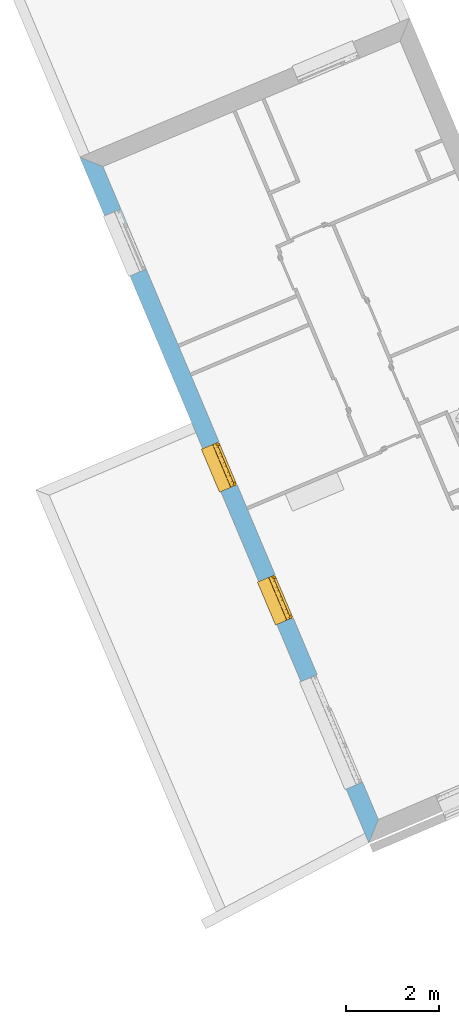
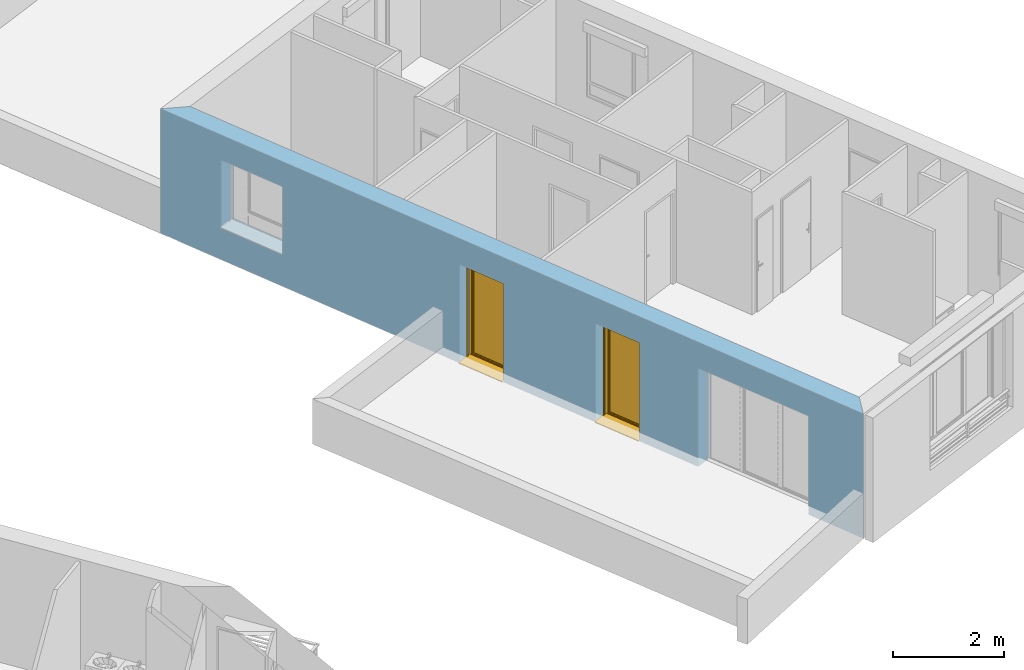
# One storey, part 33 of 121: 2 windows, 4 openings, plus 1 element that does not belong to this part.
"""IFC2X3 building model written with IfcOpenShell, lengths in metres."""

from ifc_helpers import new_model, entity, si_unit, converted_unit, derived_unit, money_unit, direction, frame, origin_with_axes, place, context, subcontext, project, spatial, polyline, outline, extrude, open_shell, faceted_brep, surface_model, source, transform, mapped, material, layer, layer_set, layer_usage, type_object, element, fill, save


model = new_model("IFC2X3")

# Units and contexts
model_context = context("Model", 3, precision=1e-05, world=origin_with_axes(), true_north=direction((0.0, 1.0)))
body_context = subcontext(model_context, "Body", "Model", "MODEL_VIEW")
ifc_project = project(units=[si_unit("LENGTHUNIT", "METRE"), si_unit("AREAUNIT", "SQUARE_METRE"), si_unit("VOLUMEUNIT", "CUBIC_METRE"), converted_unit("PLANEANGLEUNIT", "DEGREE", entity("IfcPlaneAngleMeasure", 0.0174532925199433), si_unit("PLANEANGLEUNIT", "RADIAN"), dimensions=[0, 0, 0, 0, 0, 0, 0]), money_unit("CHF"), converted_unit("TIMEUNIT", "Year", entity("IfcTimeMeasure", 31557600.0), si_unit("TIMEUNIT", "SECOND"), dimensions=[0, 0, 1, 0, 0, 0, 0]), si_unit("MASSUNIT", "GRAM", prefix="KILO"), si_unit("THERMODYNAMICTEMPERATUREUNIT", "DEGREE_CELSIUS"), si_unit("LUMINOUSINTENSITYUNIT", "LUMEN"), si_unit("ENERGYUNIT", "JOULE", prefix="MEGA"), derived_unit("THERMALCONDUCTANCEUNIT", [(si_unit("POWERUNIT", "WATT"), 1), (si_unit("LENGTHUNIT", "METRE"), -1), (si_unit("THERMODYNAMICTEMPERATUREUNIT", "KELVIN"), -1)]), derived_unit("SPECIFICHEATCAPACITYUNIT", [(si_unit("ENERGYUNIT", "JOULE"), 1), (si_unit("MASSUNIT", "GRAM", prefix="KILO"), -1), (si_unit("THERMODYNAMICTEMPERATUREUNIT", "KELVIN"), -1)]), derived_unit("MASSDENSITYUNIT", [(si_unit("MASSUNIT", "GRAM", prefix="KILO"), 1), (si_unit("VOLUMEUNIT", "CUBIC_METRE"), -1)])], contexts=[model_context])

# Site, building, storey
site_placement = place(None, origin_with_axes())
site = spatial("IfcSite", under=ifc_project, at=site_placement, Name="Site", CompositionType="ELEMENT")
building_placement = place(site_placement, origin_with_axes())
building = spatial("IfcBuilding", under=site, at=building_placement, Name="Bâtiment", CompositionType="ELEMENT")
storey_placement = place(building_placement, frame((0.0, 0.0, 2.75), z_axis=(0.0, 0.0, 1.0), x_axis=(1.0, 0.0, 0.0)))
storey = spatial("IfcBuildingStorey", under=building, at=storey_placement, Name="Etage 1", CompositionType="ELEMENT", Elevation=2.75)

# Wall, openings, windows
ifc_material_1 = material(Name="Parpaing 312445824")
ifc_layer_1 = layer(ifc_material_1, 0.22, ventilated="UNKNOWN")
ifc_material_2 = material(Name="Isolant styromousse 301821074")
ifc_layer_2 = layer(ifc_material_2, 0.16, ventilated="UNKNOWN")
ifc_layer_set = layer_set([ifc_layer_1, ifc_layer_2], Name="isol int 22+16 0836643197")
ifc_layer_usage = layer_usage(ifc_layer_set, "AXIS2", "NEGATIVE", 0.0)
wall_type = type_object("IfcWallType", Name="isol int 22+16 0836643197 380", PredefinedType="NOTDEFINED")
wall_placement = place(storey_placement, frame((9571.917965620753, -1065.802029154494, 57.7), z_axis=(0.0, 0.0, 1.0), x_axis=(-0.388566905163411, 0.9214205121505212, 0.0)))
wall = element("IfcWallStandardCase", 1, at=wall_placement, inside=storey, type_object=wall_type, material=ifc_layer_usage, Name="Mur-114", context=body_context, shape_type="SweptSolid", body=[
    extrude(outline(polyline([(0.3817093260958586, -0.3799999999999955), (15.56597725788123, -0.3800000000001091), (15.9459772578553, 0.0), (0.0, 0.0), (0.3817093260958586, -0.3799999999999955)])), origin_with_axes(), (0.0, 0.0, 1.0), 2.75),
])
opening_1_placement = place(wall_placement, frame((13.88062266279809, 0.0, 0.7000000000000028), z_axis=(0.0, 0.0, 1.0), x_axis=(1.0, 0.0, 0.0)))
element("IfcOpeningElement", 2, at=opening_1_placement, cuts=wall, Name="Fen-045", context=body_context, shape_type="Brep", body=[
    faceted_brep([(0.6999999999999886, -0.4800000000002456, 1.5), (-0.7000000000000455, -0.4800000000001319, 1.5), (-0.7000000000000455, -6.090194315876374, 1.5), (0.6999999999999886, -6.090194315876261, 1.5), (0.6999999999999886, -0.4800000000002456, 1.700000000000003), (-0.7000000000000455, -0.4800000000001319, 1.700000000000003), (-0.7000000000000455, -0.3000000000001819, 1.5), (-0.7000000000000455, -0.3000000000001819, 0.0), (-0.7000000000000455, -6.090194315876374, 0.0), (0.6999999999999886, -6.090194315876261, 0.0), (0.6999999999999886, -0.3000000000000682, 1.5), (0.6999999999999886, -0.3000000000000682, 0.0), (0.6999999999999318, -0.2200000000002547, 1.5), (0.6999999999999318, -0.2200000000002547, 1.700000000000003), (-0.6999999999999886, -0.220000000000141, 1.700000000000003), (-0.6999999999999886, -0.220000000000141, 1.5), (-0.7000000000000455, 5.71019431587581, 1.5), (-0.7000000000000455, 5.71019431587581, 0.0), (0.6999999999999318, 5.71019431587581, 0.0), (0.6999999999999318, 5.71019431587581, 1.5)], [[[0, 1, 2, 3]], [[1, 0, 4, 5]], [[1, 6, 7, 8, 2]], [[2, 8, 9, 3]], [[10, 0, 3, 9, 11]], [[0, 10, 12, 13, 4]], [[4, 13, 14, 5]], [[6, 1, 5, 14, 15]], [[6, 15, 16, 17, 7]], [[7, 11, 9, 8]], [[12, 10, 11, 18, 19]], [[12, 15, 14, 13]], [[15, 12, 19, 16]], [[19, 18, 17, 16]], [[11, 7, 17, 18]]]),
])
opening_2_placement = place(wall_placement, frame((8.666283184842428, 0.0, 0.0), z_axis=(0.0, 0.0, 1.0), x_axis=(1.0, 0.0, 0.0)))
opening_2 = element("IfcOpeningElement", 3, at=opening_2_placement, cuts=wall, Name="Fen-052", context=body_context, shape_type="Brep", body=[
    faceted_brep([(0.5, -0.4800000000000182, 2.18), (-0.5, -0.4800000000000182, 2.18), (-0.5000000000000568, -6.090194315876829, 2.18), (0.4999999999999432, -6.090194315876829, 2.18), (0.5, -0.4800000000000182, 2.380000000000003), (-0.5, -0.4800000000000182, 2.380000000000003), (-0.5, -0.3000000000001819, 2.18), (-0.5, -0.3000000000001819, 0.0), (-0.5000000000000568, -6.090194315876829, 0.0), (0.4999999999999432, -6.090194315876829, 0.0), (0.5, -0.3000000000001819, 2.18), (0.5, -0.3000000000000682, 0.0), (0.5, -0.2200000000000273, 2.18), (0.5, -0.2200000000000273, 2.380000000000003), (-0.5, -0.2200000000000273, 2.380000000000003), (-0.5, -0.2200000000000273, 2.18), (-0.5, 5.710194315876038, 2.18), (-0.5, 5.710194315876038, 0.0), (0.5, 5.710194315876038, 0.0), (0.5, 5.710194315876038, 2.18)], [[[0, 1, 2, 3]], [[1, 0, 4, 5]], [[1, 6, 7, 8, 2]], [[2, 8, 9, 3]], [[10, 0, 3, 9, 11]], [[0, 10, 12, 13, 4]], [[4, 13, 14, 5]], [[6, 1, 5, 14, 15]], [[6, 15, 16, 17, 7]], [[7, 11, 9, 8]], [[12, 10, 11, 18, 19]], [[12, 15, 14, 13]], [[15, 12, 19, 16]], [[19, 18, 17, 16]], [[11, 7, 17, 18]]]),
])
opening_3_placement = place(wall_placement, frame((5.576626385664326, 0.0, 0.0), z_axis=(0.0, 0.0, 1.0), x_axis=(1.0, 0.0, 0.0)))
opening_3 = element("IfcOpeningElement", 4, at=opening_3_placement, cuts=wall, Name="Fen-052", context=body_context, shape_type="Brep", body=[
    faceted_brep([(0.5, -0.4799999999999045, 2.18), (-0.5000000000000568, -0.4800000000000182, 2.18), (-0.5000000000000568, -6.090194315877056, 2.18), (0.4999999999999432, -6.090194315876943, 2.18), (0.5, -0.4799999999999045, 2.380000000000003), (-0.5000000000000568, -0.4800000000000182, 2.380000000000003), (-0.5, -0.3000000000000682, 2.18), (-0.5, -0.3000000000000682, 0.0), (-0.5000000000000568, -6.090194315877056, 0.0), (0.4999999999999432, -6.090194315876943, 0.0), (0.5, -0.3000000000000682, 2.18), (0.5, -0.3000000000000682, 0.0), (0.5, -0.2200000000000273, 2.18), (0.5, -0.2200000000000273, 2.380000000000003), (-0.5, -0.2200000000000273, 2.380000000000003), (-0.5, -0.2200000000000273, 2.18), (-0.5, 5.710194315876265, 2.18), (-0.5, 5.710194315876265, 0.0), (0.5, 5.710194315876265, 0.0), (0.5, 5.710194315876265, 2.18)], [[[0, 1, 2, 3]], [[1, 0, 4, 5]], [[1, 6, 7, 8, 2]], [[2, 8, 9, 3]], [[10, 0, 3, 9, 11]], [[0, 10, 12, 13, 4]], [[4, 13, 14, 5]], [[6, 1, 5, 14, 15]], [[6, 15, 16, 17, 7]], [[7, 11, 9, 8]], [[12, 10, 11, 18, 19]], [[12, 15, 14, 13]], [[15, 12, 19, 16]], [[19, 18, 17, 16]], [[11, 7, 17, 18]]]),
])
opening_4_placement = place(wall_placement, frame((2.4999145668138, 0.0, 0.0), z_axis=(0.0, 0.0, 1.0), x_axis=(1.0, 0.0, 0.0)))
element("IfcOpeningElement", 5, at=opening_4_placement, cuts=wall, Name="Fen-045", context=body_context, shape_type="Brep", body=[
    faceted_brep([(1.25, -0.4800000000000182, 2.18), (-1.25, -0.4800000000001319, 2.18), (-1.25, -6.090194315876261, 2.18), (1.25, -6.090194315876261, 2.18), (1.25, -0.4800000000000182, 2.380000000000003), (-1.25, -0.4800000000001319, 2.380000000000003), (-1.25, -0.2999999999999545, 2.18), (-1.249999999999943, -0.3000000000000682, 0.0), (-1.25, -6.090194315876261, 0.0), (1.25, -6.090194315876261, 0.0), (1.25, -0.3000000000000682, 2.18), (1.250000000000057, -0.3000000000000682, 0.0), (1.25, -0.2200000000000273, 2.18), (1.25, -0.2200000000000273, 2.380000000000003), (-1.25, -0.2200000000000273, 2.380000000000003), (-1.25, -0.2200000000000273, 2.18), (-1.25, 5.710194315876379, 2.18), (-1.25, 5.710194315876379, 0.0), (1.25, 5.710194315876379, 0.0), (1.25, 5.710194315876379, 2.18)], [[[0, 1, 2, 3]], [[1, 0, 4, 5]], [[1, 6, 7, 8, 2]], [[2, 8, 9, 3]], [[10, 0, 3, 9, 11]], [[0, 10, 12, 13, 4]], [[4, 13, 14, 5]], [[6, 1, 5, 14, 15]], [[6, 15, 16, 17, 7]], [[7, 11, 9, 8]], [[12, 10, 11, 18, 19]], [[12, 15, 14, 13]], [[15, 12, 19, 16]], [[19, 18, 17, 16]], [[11, 7, 17, 18]]]),
])
window_style = type_object("IfcWindowStyle", Name="Fenêtre variable 27", ConstructionType="NOTDEFINED", OperationType="SINGLE_PANEL", ParameterTakesPrecedence=False, Sizeable=False)
shared_shape = source(origin_with_axes(), body_context, "Body", "SurfaceModel", [
    surface_model("IfcShellBasedSurfaceModel", [(0.5, -0.05100000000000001, 0.05), (-0.5, -0.05100000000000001, 0.05000000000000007), (-0.5, -0.05100000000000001, 0.04000000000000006), (0.5, -0.05100000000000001, 0.04), (-0.5, -0.3799999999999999, 0.02900000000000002), (0.5, -0.3799999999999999, 0.02899999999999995), (-0.5, -0.3799999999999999, 0.009000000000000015), (0.5, -0.3799999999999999, 0.008999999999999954), (-0.5, -0.3699999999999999, 0.01900000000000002), (0.5, -0.3699999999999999, 0.01899999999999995)], [open_shell([[[0, 1, 2, 3]], [[3, 2, 4, 5]], [[5, 4, 6, 7]], [[7, 6, 8, 9]]])]),
    faceted_brep([(0.5, -0.13, 2.38), (0.5, 0.13, 2.38), (0.497, 0.13, 2.38), (0.497, -0.13, 2.38), (0.5, -0.13, 2.18), (0.5, 0.13, 2.18), (0.497, 0.13, 2.18), (0.497, -0.13, 2.18)], [[[0, 1, 2, 3]], [[0, 4, 5, 1]], [[1, 5, 6, 2]], [[3, 2, 6, 7]], [[4, 0, 3, 7]], [[5, 4, 7, 6]]]),
    faceted_brep([(-0.497, -0.1299999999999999, 2.38), (-0.497, 0.1300000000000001, 2.38), (-0.5, 0.1300000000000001, 2.38), (-0.5, -0.1299999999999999, 2.38), (-0.497, -0.1299999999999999, 2.18), (-0.497, 0.1300000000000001, 2.18), (-0.5, 0.1300000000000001, 2.18), (-0.5, -0.1299999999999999, 2.18)], [[[0, 1, 2, 3]], [[0, 4, 5, 1]], [[1, 5, 6, 2]], [[3, 2, 6, 7]], [[4, 0, 3, 7]], [[5, 4, 7, 6]]]),
    faceted_brep([(0.497, -0.13, 2.18), (0.497, -0.13, 2.38), (-0.497, -0.1299999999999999, 2.38), (-0.497, -0.1299999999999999, 2.18), (0.497, -0.127, 2.18), (0.497, -0.127, 2.377), (0.497, 0.127, 2.377), (0.497, 0.127, 2.183), (0.497, -0.108, 2.183), (0.497, -0.108, 2.18), (0.497, 0.13, 2.18), (0.497, 0.13, 2.38), (-0.497, 0.1300000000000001, 2.38), (-0.497, 0.1300000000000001, 2.18), (-0.497, -0.1079999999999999, 2.18), (-0.497, -0.1079999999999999, 2.183), (-0.497, 0.1270000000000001, 2.183), (-0.497, 0.1270000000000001, 2.377), (-0.497, -0.1269999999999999, 2.377), (-0.497, -0.1269999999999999, 2.18)], [[[0, 1, 2, 3]], [[0, 4, 5, 6, 7, 8, 9, 10, 11, 1]], [[1, 11, 12, 2]], [[3, 2, 12, 13, 14, 15, 16, 17, 18, 19]], [[4, 0, 3, 19]], [[5, 4, 19, 18]], [[6, 5, 18, 17]], [[7, 6, 17, 16]], [[8, 7, 16, 15]], [[9, 8, 15, 14]], [[10, 9, 14, 13]], [[11, 10, 13, 12]]]),
    faceted_brep([(0.494, -0.08075423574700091, 2.265760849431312), (0.494, -0.07705479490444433, 2.251954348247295), (0.494, -0.07101408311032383, 2.239), (0.494, -0.06281564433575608, 2.227291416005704), (0.494, -0.05270858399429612, 2.217184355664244), (0.494, -0.04099999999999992, 2.208985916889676), (0.494, -0.02804565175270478, 2.202945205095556), (0.494, -0.01423915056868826, 2.199245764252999), (0.494, 0.0, 2.198), (0.494, 0.01423915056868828, 2.199245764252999), (0.494, 0.02804565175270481, 2.202945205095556), (0.494, 0.04099999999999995, 2.208985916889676), (0.494, 0.05270858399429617, 2.217184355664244), (0.494, 0.06281564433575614, 2.227291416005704), (0.494, 0.0710140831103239, 2.239), (0.494, 0.07705479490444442, 2.251954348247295), (0.494, 0.08075423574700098, 2.265760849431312), (0.494, 0.08199999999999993, 2.28), (0.494, 0.080754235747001, 2.294239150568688), (0.494, 0.07705479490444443, 2.308045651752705), (0.494, 0.07101408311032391, 2.321), (0.494, 0.06281564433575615, 2.332708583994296), (0.494, 0.05270858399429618, 2.342815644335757), (0.494, 0.04099999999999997, 2.351014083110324), (0.494, 0.02804565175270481, 2.357054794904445), (0.494, 0.01423915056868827, 2.360754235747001), (0.494, 0.0, 2.362), (0.494, -0.0142391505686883, 2.360754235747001), (0.494, -0.02804565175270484, 2.357054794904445), (0.494, -0.041, 2.351014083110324), (0.494, -0.05270858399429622, 2.342815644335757), (0.494, -0.0628156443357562, 2.332708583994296), (0.494, -0.07101408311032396, 2.321), (0.494, -0.07705479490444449, 2.308045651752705), (0.494, -0.08075423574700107, 2.294239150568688), (0.494, -0.082, 2.28), (-0.494, -0.08075423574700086, 2.265760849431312), (-0.494, -0.07705479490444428, 2.251954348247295), (-0.494, -0.07101408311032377, 2.239), (-0.494, -0.06281564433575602, 2.227291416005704), (-0.494, -0.05270858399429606, 2.217184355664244), (-0.494, -0.04099999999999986, 2.208985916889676), (-0.494, -0.02804565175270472, 2.202945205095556), (-0.494, -0.01423915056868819, 2.199245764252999), (-0.494, 0.0, 2.198), (-0.494, 0.01423915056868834, 2.199245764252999), (-0.494, 0.02804565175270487, 2.202945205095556), (-0.494, 0.04100000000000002, 2.208985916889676), (-0.494, 0.05270858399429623, 2.217184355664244), (-0.494, 0.06281564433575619, 2.227291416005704), (-0.494, 0.07101408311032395, 2.239), (-0.494, 0.07705479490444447, 2.251954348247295), (-0.494, 0.08075423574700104, 2.265760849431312), (-0.494, 0.08199999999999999, 2.28), (-0.494, 0.08075423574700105, 2.294239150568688), (-0.494, 0.07705479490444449, 2.308045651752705), (-0.494, 0.07101408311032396, 2.321), (-0.494, 0.0628156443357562, 2.332708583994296), (-0.494, 0.05270858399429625, 2.342815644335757), (-0.494, 0.04100000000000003, 2.351014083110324), (-0.494, 0.02804565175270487, 2.357054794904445), (-0.494, 0.01423915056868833, 2.360754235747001), (-0.494, 0.0, 2.362), (-0.494, -0.01423915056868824, 2.360754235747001), (-0.494, -0.02804565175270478, 2.357054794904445), (-0.494, -0.04099999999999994, 2.351014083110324), (-0.494, -0.05270858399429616, 2.342815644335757), (-0.494, -0.06281564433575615, 2.332708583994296), (-0.494, -0.07101408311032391, 2.321), (-0.494, -0.07705479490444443, 2.308045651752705), (-0.494, -0.08075423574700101, 2.294239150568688), (-0.494, -0.08199999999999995, 2.28)], [[[0, 1, 2, 3, 4, 5, 6, 7, 8, 9, 10, 11, 12, 13, 14, 15, 16, 17, 18, 19, 20, 21, 22, 23, 24, 25, 26, 27, 28, 29, 30, 31, 32, 33, 34, 35]], [[1, 0, 36, 37]], [[2, 1, 37, 38]], [[3, 2, 38, 39]], [[4, 3, 39, 40]], [[5, 4, 40, 41]], [[6, 5, 41, 42]], [[7, 6, 42, 43]], [[8, 7, 43, 44]], [[9, 8, 44, 45]], [[10, 9, 45, 46]], [[11, 10, 46, 47]], [[12, 11, 47, 48]], [[13, 12, 48, 49]], [[14, 13, 49, 50]], [[15, 14, 50, 51]], [[16, 15, 51, 52]], [[17, 16, 52, 53]], [[18, 17, 53, 54]], [[19, 18, 54, 55]], [[20, 19, 55, 56]], [[21, 20, 56, 57]], [[22, 21, 57, 58]], [[23, 22, 58, 59]], [[24, 23, 59, 60]], [[25, 24, 60, 61]], [[26, 25, 61, 62]], [[27, 26, 62, 63]], [[28, 27, 63, 64]], [[29, 28, 64, 65]], [[30, 29, 65, 66]], [[31, 30, 66, 67]], [[32, 31, 67, 68]], [[33, 32, 68, 69]], [[34, 33, 69, 70]], [[35, 34, 70, 71]], [[0, 35, 71, 36]], [[36, 71, 70, 69, 68, 67, 66, 65, 64, 63, 62, 61, 60, 59, 58, 57, 56, 55, 54, 53, 52, 51, 50, 49, 48, 47, 46, 45, 44, 43, 42, 41, 40, 39, 38, 37]]]),
    faceted_brep([(-0.5, -0.105, 0.03), (-0.5, -0.13, 0.03), (-0.5, -0.1299999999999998, 2.18), (-0.5, -0.1049999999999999, 2.18), (-0.475, -0.105, 0.03), (-0.475, -0.108, 0.03), (-0.497, -0.108, 0.03), (-0.497, -0.127, 0.03), (-0.475, -0.127, 0.03), (-0.475, -0.13, 0.03), (-0.475, -0.1299999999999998, 2.18), (-0.475, -0.1269999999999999, 2.18), (-0.497, -0.1269999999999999, 2.18), (-0.497, -0.1079999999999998, 2.18), (-0.475, -0.1079999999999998, 2.18), (-0.475, -0.1049999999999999, 2.18)], [[[0, 1, 2, 3]], [[0, 4, 5, 6, 7, 8, 9, 1]], [[1, 9, 10, 2]], [[3, 2, 10, 11, 12, 13, 14, 15]], [[4, 0, 3, 15]], [[5, 4, 15, 14]], [[6, 5, 14, 13]], [[7, 6, 13, 12]], [[8, 7, 12, 11]], [[9, 8, 11, 10]]]),
    faceted_brep([(0.5, -0.105, 0.03), (0.5, -0.1049999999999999, 2.18), (0.5, -0.1299999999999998, 2.18), (0.5, -0.13, 0.03), (0.475, -0.105, 0.03), (0.475, -0.1049999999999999, 2.18), (0.475, -0.1079999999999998, 2.18), (0.497, -0.1079999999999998, 2.18), (0.497, -0.1269999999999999, 2.18), (0.475, -0.1269999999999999, 2.18), (0.475, -0.1299999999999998, 2.18), (0.475, -0.13, 0.03), (0.475, -0.127, 0.03), (0.497, -0.127, 0.03), (0.497, -0.108, 0.03), (0.475, -0.108, 0.03)], [[[0, 1, 2, 3]], [[4, 5, 1, 0]], [[1, 5, 6, 7, 8, 9, 10, 2]], [[3, 2, 10, 11]], [[0, 3, 11, 12, 13, 14, 15, 4]], [[15, 6, 5, 4]], [[14, 7, 6, 15]], [[13, 8, 7, 14]], [[12, 9, 8, 13]], [[11, 10, 9, 12]]]),
    surface_model("IfcShellBasedSurfaceModel", [(0.497, -0.115, 2.28), (-0.497, -0.1149999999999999, 2.28), (-0.497, -0.1199999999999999, 2.28), (0.497, -0.12, 2.28), (0.497, -0.115, 2.28), (0.497, -0.12, 2.28), (-0.497, -0.1199999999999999, 2.28), (-0.497, -0.1149999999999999, 2.28)], [open_shell([[[0, 1, 2, 3]], [[4, 5, 6, 7]]])]),
    faceted_brep([(0.497, -0.115, 2.28), (0.497, -0.1166666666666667, 2.263333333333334), (-0.497, -0.1166666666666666, 2.263333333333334), (-0.497, -0.1149999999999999, 2.28), (0.497, -0.12, 2.28), (0.497, -0.1216666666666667, 2.263333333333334), (0.497, -0.1216666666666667, 2.246666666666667), (0.497, -0.12, 2.23), (0.497, -0.115, 2.23), (0.497, -0.1166666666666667, 2.246666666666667), (-0.497, -0.1166666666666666, 2.246666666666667), (-0.497, -0.1149999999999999, 2.23), (-0.497, -0.1199999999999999, 2.23), (-0.497, -0.1216666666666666, 2.246666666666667), (-0.497, -0.1216666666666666, 2.263333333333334), (-0.497, -0.1199999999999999, 2.28)], [[[0, 1, 2, 3]], [[0, 4, 5, 6, 7, 8, 9, 1]], [[1, 9, 10, 2]], [[3, 2, 10, 11, 12, 13, 14, 15]], [[4, 0, 3, 15]], [[5, 4, 15, 14]], [[6, 5, 14, 13]], [[7, 6, 13, 12]], [[8, 7, 12, 11]], [[9, 8, 11, 10]]]),
    faceted_brep([(0.497, -0.115, 2.23), (0.497, -0.1166666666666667, 2.213333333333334), (-0.497, -0.1166666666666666, 2.213333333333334), (-0.497, -0.1149999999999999, 2.23), (0.497, -0.12, 2.23), (0.497, -0.1216666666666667, 2.213333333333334), (0.497, -0.1216666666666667, 2.196666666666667), (0.497, -0.12, 2.180000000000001), (0.497, -0.115, 2.180000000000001), (0.497, -0.1166666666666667, 2.196666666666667), (-0.497, -0.1166666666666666, 2.196666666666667), (-0.497, -0.1149999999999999, 2.180000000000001), (-0.497, -0.1199999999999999, 2.180000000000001), (-0.497, -0.1216666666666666, 2.196666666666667), (-0.497, -0.1216666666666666, 2.213333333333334), (-0.497, -0.1199999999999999, 2.23)], [[[0, 1, 2, 3]], [[0, 4, 5, 6, 7, 8, 9, 1]], [[1, 9, 10, 2]], [[3, 2, 10, 11, 12, 13, 14, 15]], [[4, 0, 3, 15]], [[5, 4, 15, 14]], [[6, 5, 14, 13]], [[7, 6, 13, 12]], [[8, 7, 12, 11]], [[9, 8, 11, 10]]]),
    faceted_brep([(0.475, 0.0, 2.13), (0.475, -0.02500000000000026, 2.13), (0.45, -0.02500000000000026, 2.13), (0.45, -0.05000000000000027, 2.13), (0.5, -0.05000000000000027, 2.13), (0.5, 0.0, 2.13), (0.475, 0.0, 0.05000000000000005), (0.475, -0.02500000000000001, 0.05000000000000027), (0.45, -0.02500000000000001, 0.05000000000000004), (0.45, -0.05000000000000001, 0.05000000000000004), (0.5, -0.05000000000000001, 0.05000000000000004), (0.5, 0.0, 0.05000000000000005)], [[[0, 1, 2, 3, 4, 5]], [[1, 0, 6, 7]], [[8, 2, 1, 7]], [[2, 8, 9, 3]], [[4, 3, 9, 10]], [[5, 4, 10, 11]], [[6, 0, 5, 11]], [[7, 6, 11, 10, 9, 8]]]),
    faceted_brep([(-0.45, -0.02500000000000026, 2.13), (-0.475, -0.02500000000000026, 2.13), (-0.475, 0.0, 2.13), (-0.5, 0.0, 2.13), (-0.5, -0.05000000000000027, 2.13), (-0.45, -0.05000000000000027, 2.13), (-0.45, -0.02500000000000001, 0.05000000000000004), (-0.475, -0.02500000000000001, 0.05000000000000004), (-0.475, 0.0, 0.05000000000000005), (-0.5, 0.0, 0.05000000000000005), (-0.5, -0.05000000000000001, 0.05000000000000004), (-0.45, -0.05000000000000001, 0.05000000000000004)], [[[0, 1, 2, 3, 4, 5]], [[1, 0, 6, 7]], [[8, 2, 1, 7]], [[2, 8, 9, 3]], [[9, 10, 4, 3]], [[10, 11, 5, 4]], [[6, 0, 5, 11]], [[7, 6, 11, 10, 9, 8]]]),
    faceted_brep([(-0.45, -0.02500000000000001, 0.05000000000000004), (-0.475, -0.02500000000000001, 0.05000000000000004), (-0.475, 0.0, 0.05000000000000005), (-0.5, 0.0, 0.05000000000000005), (-0.5, -0.05000000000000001, 0.05000000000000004), (-0.45, -0.05000000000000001, 0.05000000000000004), (0.45, -0.02500000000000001, 0.05000000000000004), (0.475, -0.02500000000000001, 0.05000000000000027), (0.475, -0.025, 0.02499999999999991), (-0.475, -0.025, 0.02499999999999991), (-0.475, 0.0, 0.02499999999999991), (0.475, 0.0, 0.02499999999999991), (0.475, 0.0, 0.05000000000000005), (0.5, 0.0, 0.05000000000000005), (0.5, 0.0, 0.0), (-0.5, 0.0, 0.0), (-0.5, -0.05, 0.0), (0.5, -0.05000000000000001, 0.05000000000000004), (0.45, -0.05000000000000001, 0.05000000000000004), (0.5, -0.05, 0.0)], [[[0, 1, 2, 3, 4, 5]], [[1, 0, 6, 7, 8, 9]], [[10, 2, 1, 9]], [[11, 12, 13, 14, 15, 3, 2, 10]], [[15, 16, 4, 3]], [[17, 18, 5, 4, 16, 19]], [[6, 0, 5, 18]], [[7, 6, 18, 17, 13, 12]], [[7, 12, 11, 8]], [[11, 10, 9, 8]], [[13, 17, 19, 14]], [[14, 19, 16, 15]]]),
    faceted_brep([(0.475, 0.0, 2.13), (0.475, 0.0, 2.155), (-0.475, 0.0, 2.155), (-0.475, 0.0, 2.13), (-0.5, 0.0, 2.13), (-0.5, 0.0, 2.18), (0.5, 0.0, 2.18), (0.5, 0.0, 2.13), (0.475, -0.02500000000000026, 2.13), (0.475, -0.02500000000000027, 2.155), (-0.475, -0.02500000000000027, 2.155), (-0.475, -0.02500000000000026, 2.13), (-0.45, -0.02500000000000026, 2.13), (-0.45, -0.05000000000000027, 2.13), (-0.5, -0.05000000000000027, 2.13), (-0.5, -0.05000000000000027, 2.18), (0.5, -0.05000000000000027, 2.18), (0.5, -0.05000000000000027, 2.13), (0.45, -0.05000000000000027, 2.13), (0.45, -0.02500000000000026, 2.13)], [[[0, 1, 2, 3, 4, 5, 6, 7]], [[1, 0, 8, 9]], [[2, 1, 9, 10]], [[3, 2, 10, 11]], [[11, 12, 13, 14, 4, 3]], [[4, 14, 15, 5]], [[5, 15, 16, 6]], [[6, 16, 17, 7]], [[8, 0, 7, 17, 18, 19]], [[12, 11, 10, 9, 8, 19]], [[12, 19, 18, 13]], [[14, 13, 18, 17, 16, 15]]]),
    faceted_brep([(0.425, -0.02500000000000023, 2.105), (0.475, -0.02500000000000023, 2.105), (0.475, 0.02499999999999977, 2.105), (0.425, 0.02499999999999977, 2.105), (0.425, -0.02499999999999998, 0.07500000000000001), (0.475, -0.02499999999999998, 0.07500000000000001), (0.475, 0.02500000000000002, 0.07500000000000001), (0.425, 0.02500000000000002, 0.07500000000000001)], [[[0, 1, 2, 3]], [[0, 4, 5, 1]], [[1, 5, 6, 2]], [[3, 2, 6, 7]], [[4, 0, 3, 7]], [[5, 4, 7, 6]]]),
    faceted_brep([(-0.425, -0.02500000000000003, 0.07500000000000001), (-0.475, -0.02500000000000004, 0.07500000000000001), (-0.475, 0.02499999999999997, 0.07500000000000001), (-0.425, 0.02499999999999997, 0.07500000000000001), (-0.425, -0.02500000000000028, 2.105), (-0.475, -0.02500000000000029, 2.105), (-0.475, 0.02499999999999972, 2.105), (-0.425, 0.02499999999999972, 2.105)], [[[0, 1, 2, 3]], [[0, 4, 5, 1]], [[1, 5, 6, 2]], [[3, 2, 6, 7]], [[4, 0, 3, 7]], [[5, 4, 7, 6]]]),
    faceted_brep([(-0.475, -0.02500000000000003, 0.025), (-0.475, -0.02500000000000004, 0.07500000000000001), (-0.475, 0.02499999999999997, 0.07500000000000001), (-0.475, 0.02499999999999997, 0.02500000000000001), (0.475, -0.02499999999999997, 0.025), (0.475, -0.02499999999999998, 0.07500000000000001), (0.425, -0.02499999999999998, 0.07500000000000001), (-0.425, -0.02500000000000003, 0.07500000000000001), (-0.425, 0.02499999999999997, 0.07500000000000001), (0.425, 0.02500000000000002, 0.07500000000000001), (0.475, 0.02500000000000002, 0.07500000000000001), (0.475, 0.02500000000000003, 0.02500000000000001)], [[[0, 1, 2, 3]], [[0, 4, 5, 6, 7, 1]], [[1, 7, 8, 2]], [[3, 2, 8, 9, 10, 11]], [[4, 0, 3, 11]], [[5, 4, 11, 10]], [[6, 5, 10, 9]], [[7, 6, 9, 8]]]),
    faceted_brep([(0.475, -0.02500000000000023, 2.155), (0.475, -0.02500000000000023, 2.105), (0.475, 0.02499999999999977, 2.105), (0.475, 0.02499999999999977, 2.155), (-0.475, -0.02500000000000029, 2.155), (-0.475, -0.02500000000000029, 2.105), (-0.425, -0.02500000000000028, 2.105), (0.425, -0.02500000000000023, 2.105), (0.425, 0.02499999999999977, 2.105), (-0.425, 0.02499999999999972, 2.105), (-0.475, 0.02499999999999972, 2.105), (-0.475, 0.02499999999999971, 2.155)], [[[0, 1, 2, 3]], [[0, 4, 5, 6, 7, 1]], [[1, 7, 8, 2]], [[3, 2, 8, 9, 10, 11]], [[4, 0, 3, 11]], [[5, 4, 11, 10]], [[6, 5, 10, 9]], [[7, 6, 9, 8]]]),
    surface_model("IfcShellBasedSurfaceModel", [(0.425, -0.01000000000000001, 0.07500000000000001), (0.425, -0.01000000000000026, 2.105), (-0.425, -0.01000000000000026, 2.105), (-0.425, -0.01000000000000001, 0.07500000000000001)], [open_shell([[[0, 1, 2, 3]]])]),
    surface_model("IfcShellBasedSurfaceModel", [(0.425, 0.009999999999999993, 0.07500000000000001), (-0.425, 0.009999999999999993, 0.07500000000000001), (-0.425, 0.009999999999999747, 2.105), (0.425, 0.009999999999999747, 2.105)], [open_shell([[[0, 1, 2, 3]]])]),
])
window_1_placement = place(opening_2_placement, frame((0.4999999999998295, 0.0, 0.0), z_axis=(0.0, 0.0, 1.0), x_axis=(-1.0, 0.0, 0.0)))
window_1 = element("IfcWindow", 6, at=window_1_placement, inside=storey, type_object=window_style, Name="Fen-052", OverallHeight=2.18, OverallWidth=1.0, context=body_context, shape_type="MappedRepresentation", body=[
    mapped(shared_shape, transform((0.5, 0.3500000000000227, 0.0))),
])
fill(opening_2, window_1)
window_2_placement = place(opening_3_placement, frame((0.4999999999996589, 0.0, 0.0), z_axis=(0.0, 0.0, 1.0), x_axis=(-1.0, 0.0, 0.0)))
window_2 = element("IfcWindow", 7, at=window_2_placement, inside=storey, type_object=window_style, Name="Fen-052", OverallHeight=2.18, OverallWidth=1.0, context=body_context, shape_type="MappedRepresentation", body=[
    mapped(shared_shape, transform((0.5, 0.3500000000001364, 0.0))),
])
fill(opening_3, window_2)

save(model, "model.ifc")
